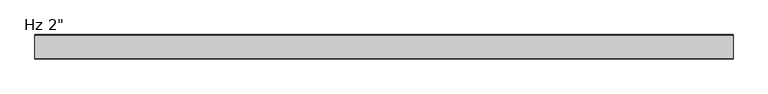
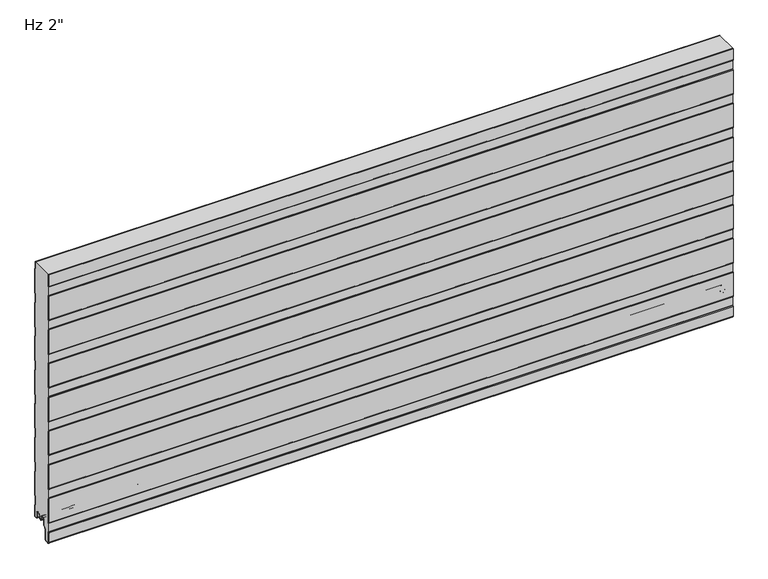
"""IFC4 building model written with IfcOpenShell, lengths in millimetres: plate geometry."""

from ifc_helpers import new_model, si_unit, point, frame, frame_2d, origin, place, context, project, spatial, polyline, circle_curve, trimmed, segment, composite_curve, outline, extrude, source, transform, mapped, element, save
from ifc_brep_helpers import plane_surface, cylinder_surface, revolved_surface, advanced_brep


def plate_15712d7d(model_context):
    return source(origin(), model_context, "Body", "SolidModel", [
        extrude(outline(composite_curve([segment(trimmed(circle_curve(frame_2d((-22.5065589, 2.2313092)), 1.1999976), [point((-22.476037, 1.0316999))], [point((-21.3065623, 2.2328239))], True, "CARTESIAN"), True, "CONTINUOUS"), segment(polyline([(-21.3065623, 2.2328239), (-21.3065623, 5.9912173), (-22.7050411, 5.9912173), (-22.7050411, 8.6903283)]), True, "CONTINUOUS"), segment(trimmed(circle_curve(frame_2d((-26.0550364, 8.6903283)), 3.3499953), [point((-22.7050411, 8.6903283))], [point((-26.0550364, 12.0403236))], True, "CARTESIAN"), True, "CONTINUOUS"), segment(polyline([(-26.0550364, 12.0403236), (-30.4550276, 12.0403236)]), True, "CONTINUOUS"), segment(trimmed(circle_curve(frame_2d((-30.4550276, 8.6903283)), 3.3499953), [point((-30.4550276, 12.0403236))], [point((-33.8050229, 8.6903283))], True, "CARTESIAN"), True, "CONTINUOUS"), segment(polyline([(-33.8050229, 8.6903283), (-33.8050229, -3.1205608)]), True, "CONTINUOUS"), segment(trimmed(circle_curve(frame_2d((-35.5050175, -3.1205608)), 1.6999946), [point((-33.8050229, -3.1205608))], [point((-34.3029398, -4.3226385))], False, "CARTESIAN"), True, "CONTINUOUS"), segment(polyline([(-34.3029398, -4.3226385), (-39.8050109, -9.8247096), (-39.8050109, -31.9198392)]), True, "CONTINUOUS"), segment(trimmed(circle_curve(frame_2d((-42.5050035, -31.9198392)), 2.6999926), [point((-39.8050109, -31.9198392))], [point((-42.0236129, -34.5765709))], False, "CARTESIAN"), True, "CONTINUOUS"), segment(polyline([(-42.0236129, -34.5765709), (-47.0054338, -35.0125699)]), True, "CONTINUOUS"), segment(trimmed(circle_curve(frame_2d((-47.2295195, -32.4521176)), 2.5702393), [point((-47.0054338, -35.0125699))], [point((-49.7997587, -32.4521176))], False, "CARTESIAN"), True, "CONTINUOUS"), segment(polyline([(-49.7997587, -32.4521176), (-49.7997587, -10.4790962), (-48.5997902, -9.2791277), (-48.5997902, 10.4402849), (-49.8000209, 11.6405156), (-49.8000209, 65.7206473), (-48.5997902, 66.920878), (-48.5997902, 86.6402905), (-49.8000209, 87.8405213), (-49.8000209, 141.920653), (-48.5997902, 143.1208837), (-48.5997902, 162.8402962), (-49.8000209, 164.0405269), (-49.8000209, 218.1206587), (-48.5997902, 219.3208894), (-48.5997902, 239.0403019), (-49.8000209, 240.2405326), (-49.8000209, 294.3206644), (-48.5997902, 295.5208951), (-48.5997902, 315.2403076), (-49.8000209, 316.4405383), (-49.8000209, 370.5206701), (-48.5997902, 371.7209008), (-48.5997902, 391.4403133), (-49.8000209, 392.640544), (-49.8000209, 446.7206758), (-48.5997902, 447.9209065), (-48.5997902, 467.640319), (-49.8000209, 468.8405497), (-49.8000209, 522.9206815), (-48.5997902, 524.1209122), (-48.5997902, 543.8403247), (-49.8000209, 545.0405554), (-49.8000209, 571.2), (-2.2065959, 571.2), (-2.2065959, 555.8186019), (-1.0063652, 554.4329689), (-1.0063652, 500.3795535), (-2.2065959, 498.9939206), (-2.2065959, 479.6187543), (-1.0063652, 478.2331213), (-1.0063652, 424.1797059), (-2.2065959, 422.794073), (-2.2065959, 403.4189067), (-1.0063652, 402.0332737), (-1.0063652, 347.9798583), (-2.2065959, 346.5942254), (-2.2065959, 327.2190591), (-1.0063652, 325.8334261), (-1.0063652, 271.7800107), (-2.2065959, 270.3943778), (-2.2065959, 251.0192115), (-1.0063652, 249.6335785), (-1.0063652, 195.5801631), (-2.2065959, 194.1945302), (-2.2065959, 174.8193639), (-1.0063652, 173.4337309), (-1.0063652, 119.3803155), (-2.2065959, 117.9946826), (-2.2065959, 98.6195163), (-1.0063652, 97.2338833), (-1.0063652, 43.1804679), (-2.2065959, 41.794835), (-2.2065959, 22.4196687), (-1.0063568, 21.034026), (-1.0063568, -3.4662506), (-5.2379042, -3.4662506)]), True, "CONTINUOUS"), segment(trimmed(circle_curve(frame_2d((-5.2379042, -1.6962564)), 1.7699942), [point((-5.2379042, -3.4662506))], [point((-7.0078983, -1.6962564))], False, "CARTESIAN"), True, "CONTINUOUS"), segment(polyline([(-7.0078983, -1.6962564), (-7.0078983, 8.7237222)]), True, "CONTINUOUS"), segment(trimmed(circle_curve(frame_2d((-10.3078942, 8.7237222)), 3.2999959), [point((-7.0078983, 8.7237222))], [point((-10.3078942, 12.023718))], True, "CARTESIAN"), True, "CONTINUOUS"), segment(polyline([(-10.3078942, 12.023718), (-14.7078854, 12.023718)]), True, "CONTINUOUS"), segment(trimmed(circle_curve(frame_2d((-14.7078854, 8.7237223)), 3.2999957), [point((-14.7078854, 12.023718))], [point((-18.0078811, 8.7237223))], True, "CARTESIAN"), True, "CONTINUOUS"), segment(polyline([(-18.0078811, 8.7237223), (-18.0078811, 6.0315125), (-19.0078757, 6.0315125), (-19.0078757, 2.0313089)]), True, "CONTINUOUS"), segment(trimmed(circle_curve(frame_2d((-18.0078785, 2.0313089)), 0.9999972), [point((-19.0078757, 2.0313089))], [point((-18.0078844, 1.0313117))], True, "CARTESIAN"), True, "CONTINUOUS"), segment(polyline([(-18.0078844, 1.0313117), (-19.0391961, 0.0), (-21.4443371, 0.0), (-22.476037, 1.0316999)]), True, "CONTINUOUS")], self_intersect=False)), frame((-730.0, 0.0, 0.0), z_axis=(1.0, 0.0, 0.0), x_axis=(0.0, 1.0, 0.0)), (0.0, 0.0, 1.0), 1460.0),
        advanced_brep(
        [(-730.0, -17.0015368, 2.0313088), (-730.0, -18.00154, 1.0313116), (-730.0, -19.0015314, 2.0313088), (-730.0, -19.0015314, 6.0315125), (-730.0, -18.0015368, 6.0315125), (-730.0, -18.0015368, 8.7237223), (-730.0, -14.7015411, 12.023718), (-730.0, -10.3015499, 12.023718), (-730.0, -7.0015544, 8.7237225), (-730.0, -7.0015544, -1.6962564), (-730.0, -5.2315602, -3.4662506), (-730.0, -1.0000126, -3.4662506), (-730.0, -1.0000126, 21.034026), (-730.0, -2.2002516, 22.4196686), (-730.0, -2.2002516, 41.7948349), (-730.0, -1.0000209, 43.1804679), (-730.0, -1.0000209, 97.2338833), (-730.0, -2.2002516, 98.6195162), (-730.0, -2.2002516, 117.9946825), (-730.0, -1.0000209, 119.3803155), (-730.0, -1.0000209, 173.4337309), (-730.0, -2.2002516, 174.8193638), (-730.0, -2.2002516, 194.1945301), (-730.0, -1.0000209, 195.5801631), (-730.0, -1.0000209, 249.6335785), (-730.0, -2.2002516, 251.0192114), (-730.0, -2.2002516, 270.3943777), (-730.0, -1.0000209, 271.7800107), (-730.0, -1.0000209, 325.8334261), (-730.0, -2.2002516, 327.219059), (-730.0, -2.2002516, 346.5942253), (-730.0, -1.0000209, 347.9798583), (-730.0, -1.0000209, 402.0332737), (-730.0, -2.2002516, 403.4189066), (-730.0, -2.2002516, 422.7940729), (-730.0, -1.0000209, 424.1797059), (-730.0, -1.0000209, 478.2331213), (-730.0, -2.2002516, 479.6187542), (-730.0, -2.2002516, 498.9939205), (-730.0, -1.0000209, 500.3795535), (-730.0, -1.0000209, 554.4329689), (-730.0, -2.2002516, 555.8186018), (-730.0, -2.2002516, 571.2), (-730.0, -1.2002516, 571.2), (-730.0, -1.2002516, 556.1914823), (-730.0, -0.3418094, 555.2004346), (-730.0, -2.09e-05, 554.2838177), (-730.0, -2.09e-05, 500.5287046), (-730.0, -0.3418094, 499.6120877), (-730.0, -1.2002516, 498.6210401), (-730.0, -1.2002516, 479.9916347), (-730.0, -0.3418094, 479.000587), (-730.0, -2.09e-05, 478.0839701), (-730.0, -2.09e-05, 424.328857), (-730.0, -0.3418094, 423.4122401), (-730.0, -1.2002516, 422.4211925), (-730.0, -1.2002516, 403.7917871), (-730.0, -0.3418094, 402.8007394), (-730.0, -2.09e-05, 401.8841225), (-730.0, -2.09e-05, 348.1290094), (-730.0, -0.3418094, 347.2123925), (-730.0, -1.2002516, 346.2213449), (-730.0, -1.2002516, 327.5919395), (-730.0, -0.3418094, 326.6008918), (-730.0, -2.09e-05, 325.6842749), (-730.0, -2.09e-05, 271.9291618), (-730.0, -0.3418094, 271.0125449), (-730.0, -1.2002516, 270.0214973), (-730.0, -1.2002516, 251.3920919), (-730.0, -0.3418094, 250.4010442), (-730.0, -2.09e-05, 249.4844273), (-730.0, -2.09e-05, 195.7293142), (-730.0, -0.3418094, 194.8126973), (-730.0, -1.2002516, 193.8216497), (-730.0, -1.2002516, 175.1922443), (-730.0, -0.3418094, 174.2011966), (-730.0, -2.09e-05, 173.2845797), (-730.0, -2.09e-05, 119.5294666), (-730.0, -0.3418094, 118.6128497), (-730.0, -1.2002516, 117.6218021), (-730.0, -1.2002516, 98.9923967), (-730.0, -0.3418094, 98.001349), (-730.0, -2.09e-05, 97.0847321), (-730.0, -2.09e-05, 43.329619), (-730.0, -0.3418094, 42.4130021), (-730.0, -1.2002516, 41.4219545), (-730.0, -1.2002516, 22.7925491), (-730.0, -0.3418094, 21.8015014), (-730.0, -2.09e-05, 20.8847931), (-730.0, -1.26e-05, -3.0662545), (-730.0, -1.4000087, -4.4662506), (-730.0, -5.2315602, -4.4662506), (-730.0, -8.0015544, -1.6962564), (-730.0, -8.0015544, 8.7237225), (-730.0, -10.3015499, 11.023718), (-730.0, -14.7015411, 11.023718), (-730.0, -17.0015368, 8.7237223), (730.0, -17.0015368, 2.0313088), (730.0, -17.0015368, 8.7237223), (730.0, -14.7015411, 11.023718), (730.0, -10.3015499, 11.023718), (730.0, -8.0015544, 8.7237225), (730.0, -8.0015544, -1.6962564), (730.0, -5.2315602, -4.4662506), (730.0, -1.4000087, -4.4662506), (730.0, -1.26e-05, -3.0662545), (730.0, -1.26e-05, 20.8848845), (730.0, -0.3418094, 21.8015014), (730.0, -1.2002516, 22.7925491), (730.0, -1.2002516, 41.4219545), (730.0, -0.3418094, 42.4130021), (730.0, -2.09e-05, 43.329619), (730.0, -2.09e-05, 97.0847321), (730.0, -0.3418094, 98.001349), (730.0, -1.2002516, 98.9923967), (730.0, -1.2002516, 117.6218021), (730.0, -0.3418094, 118.6128497), (730.0, -2.09e-05, 119.5294666), (730.0, -2.09e-05, 173.2845797), (730.0, -0.3418094, 174.2011966), (730.0, -1.2002516, 175.1922443), (730.0, -1.2002516, 193.8216497), (730.0, -0.3418094, 194.8126973), (730.0, -2.09e-05, 195.7293142), (730.0, -2.09e-05, 249.4844273), (730.0, -0.3418094, 250.4010442), (730.0, -1.2002516, 251.3920919), (730.0, -1.2002516, 270.0214973), (730.0, -0.3418094, 271.0125449), (730.0, -2.09e-05, 271.9291618), (730.0, -2.09e-05, 325.6842749), (730.0, -0.3418094, 326.6008918), (730.0, -1.2002516, 327.5919395), (730.0, -1.2002516, 346.2213449), (730.0, -0.3418094, 347.2123925), (730.0, -2.09e-05, 348.1290094), (730.0, -2.09e-05, 401.8841225), (730.0, -0.3418094, 402.8007394), (730.0, -1.2002516, 403.7917871), (730.0, -1.2002516, 422.4211925), (730.0, -0.3418094, 423.4122401), (730.0, -2.09e-05, 424.328857), (730.0, -2.09e-05, 478.0839701), (730.0, -0.3418094, 479.000587), (730.0, -1.2002516, 479.9916347), (730.0, -1.2002516, 498.6210401), (730.0, -0.3418094, 499.6120877), (730.0, -2.09e-05, 500.5287046), (730.0, -2.09e-05, 554.2838177), (730.0, -0.3418094, 555.2004346), (730.0, -1.2002516, 556.1914823), (730.0, -1.2002516, 571.2), (730.0, -2.2002516, 571.2), (730.0, -2.2002516, 555.8186018), (730.0, -1.0000209, 554.4329689), (730.0, -1.0000209, 500.3795535), (730.0, -2.2002516, 498.9939205), (730.0, -2.2002516, 479.6187542), (730.0, -1.0000209, 478.2331213), (730.0, -1.0000209, 424.1797059), (730.0, -2.2002516, 422.7940729), (730.0, -2.2002516, 403.4189066), (730.0, -1.0000209, 402.0332737), (730.0, -1.0000209, 347.9798583), (730.0, -2.2002516, 346.5942253), (730.0, -2.2002516, 327.219059), (730.0, -1.0000209, 325.8334261), (730.0, -1.0000209, 271.7800107), (730.0, -2.2002516, 270.3943777), (730.0, -2.2002516, 251.0192114), (730.0, -1.0000209, 249.6335785), (730.0, -1.0000209, 195.5801631), (730.0, -2.2002516, 194.1945301), (730.0, -2.2002516, 174.8193638), (730.0, -1.0000209, 173.4337309), (730.0, -1.0000209, 119.3803155), (730.0, -2.2002516, 117.9946825), (730.0, -2.2002516, 98.6195162), (730.0, -1.0000209, 97.2338833), (730.0, -1.0000209, 43.1804679), (730.0, -2.2002516, 41.7948349), (730.0, -2.2002516, 22.4196686), (730.0, -1.0000126, 21.034026), (730.0, -1.0000126, -3.4662506), (730.0, -5.2315602, -3.4662506), (730.0, -7.0015544, -1.6962564), (730.0, -7.0015544, 8.7237225), (730.0, -10.3015499, 12.023718), (730.0, -14.7015411, 12.023718), (730.0, -18.0015368, 8.7237223), (730.0, -18.0015368, 6.0315125), (730.0, -19.0015314, 6.0315125), (730.0, -19.0015314, 2.0313088), (730.0, -18.0015401, 1.0313116)],
        [
            (0, 1, circle_curve(frame((-730.0, -18.0015341, 2.0313088), z_axis=(-1.0, 0.0, 0.0), x_axis=(0.0, 0.0, 1.0)), 0.9999973)),
            (1, 2, circle_curve(frame((-730.0, -18.0015342, 2.0313088), z_axis=(-1.0, 0.0, 0.0), x_axis=(0.0, 0.0, 1.0)), 0.9999972)),
            (2, 3),
            (3, 4),
            (4, 5),
            (5, 6, circle_curve(frame((-730.0, -14.7015411, 8.7237223), z_axis=(-1.0, 0.0, 0.0), x_axis=(0.0, 0.0, 1.0)), 3.2999957)),
            (6, 7),
            (7, 8, circle_curve(frame((-730.0, -10.3015499, 8.7237225), z_axis=(-1.0, 0.0, 0.0), x_axis=(0.0, 0.0, 1.0)), 3.2999955)),
            (8, 9),
            (9, 10, circle_curve(frame((-730.0, -5.2315602, -1.6962564), z_axis=(1.0, 0.0, 0.0), x_axis=(0.0, 0.0, 1.0)), 1.7699942)),
            (10, 11),
            (11, 12),
            (12, 13),
            (13, 14),
            (14, 15),
            (15, 16),
            (16, 17),
            (17, 18),
            (18, 19),
            (19, 20),
            (20, 21),
            (21, 22),
            (22, 23),
            (23, 24),
            (24, 25),
            (25, 26),
            (26, 27),
            (27, 28),
            (28, 29),
            (29, 30),
            (30, 31),
            (31, 32),
            (32, 33),
            (33, 34),
            (34, 35),
            (35, 36),
            (36, 37),
            (37, 38),
            (38, 39),
            (39, 40),
            (40, 41),
            (41, 42),
            (42, 43),
            (43, 44),
            (44, 45),
            (45, 46, circle_curve(frame((-730.0, -1.4000181, 554.2838177), z_axis=(-1.0, 0.0, 0.0), x_axis=(0.0, 0.0, 1.0)), 1.3999972)),
            (46, 47),
            (47, 48, circle_curve(frame((-730.0, -1.4000181, 500.5287046), z_axis=(-1.0, 0.0, 0.0), x_axis=(0.0, 0.0, 1.0)), 1.3999972)),
            (48, 49),
            (49, 50),
            (50, 51),
            (51, 52, circle_curve(frame((-730.0, -1.4000181, 478.0839701), z_axis=(-1.0, 0.0, 0.0), x_axis=(0.0, 0.0, 1.0)), 1.3999972)),
            (52, 53),
            (53, 54, circle_curve(frame((-730.0, -1.4000181, 424.328857), z_axis=(-1.0, 0.0, 0.0), x_axis=(0.0, 0.0, 1.0)), 1.3999972)),
            (54, 55),
            (55, 56),
            (56, 57),
            (57, 58, circle_curve(frame((-730.0, -1.4000181, 401.8841225), z_axis=(-1.0, 0.0, 0.0), x_axis=(0.0, 0.0, 1.0)), 1.3999972)),
            (58, 59),
            (59, 60, circle_curve(frame((-730.0, -1.4000181, 348.1290094), z_axis=(-1.0, 0.0, 0.0), x_axis=(0.0, 0.0, 1.0)), 1.3999972)),
            (60, 61),
            (61, 62),
            (62, 63),
            (63, 64, circle_curve(frame((-730.0, -1.4000181, 325.6842749), z_axis=(-1.0, 0.0, 0.0), x_axis=(0.0, 0.0, 1.0)), 1.3999972)),
            (64, 65),
            (65, 66, circle_curve(frame((-730.0, -1.4000181, 271.9291618), z_axis=(-1.0, 0.0, 0.0), x_axis=(0.0, 0.0, 1.0)), 1.3999972)),
            (66, 67),
            (67, 68),
            (68, 69),
            (69, 70, circle_curve(frame((-730.0, -1.4000181, 249.4844273), z_axis=(-1.0, 0.0, 0.0), x_axis=(0.0, 0.0, 1.0)), 1.3999972)),
            (70, 71),
            (71, 72, circle_curve(frame((-730.0, -1.4000181, 195.7293142), z_axis=(-1.0, 0.0, 0.0), x_axis=(0.0, 0.0, 1.0)), 1.3999972)),
            (72, 73),
            (73, 74),
            (74, 75),
            (75, 76, circle_curve(frame((-730.0, -1.4000181, 173.2845797), z_axis=(-1.0, 0.0, 0.0), x_axis=(0.0, 0.0, 1.0)), 1.3999972)),
            (76, 77),
            (77, 78, circle_curve(frame((-730.0, -1.4000181, 119.5294666), z_axis=(-1.0, 0.0, 0.0), x_axis=(0.0, 0.0, 1.0)), 1.3999972)),
            (78, 79),
            (79, 80),
            (80, 81),
            (81, 82, circle_curve(frame((-730.0, -1.4000181, 97.0847321), z_axis=(-1.0, 0.0, 0.0), x_axis=(0.0, 0.0, 1.0)), 1.3999972)),
            (82, 83),
            (83, 84, circle_curve(frame((-730.0, -1.4000181, 43.329619), z_axis=(-1.0, 0.0, 0.0), x_axis=(0.0, 0.0, 1.0)), 1.3999972)),
            (84, 85),
            (85, 86),
            (86, 87),
            (87, 88, circle_curve(frame((-730.0, -1.4000181, 20.8848845), z_axis=(-1.0, 0.0, 0.0), x_axis=(0.0, 0.0, 1.0)), 1.3999972)),
            (88, 89),
            (89, 90, circle_curve(frame((-730.0, -1.4000087, -3.0662545), z_axis=(-1.0, 0.0, 0.0), x_axis=(0.0, 0.0, 1.0)), 1.3999962)),
            (90, 91),
            (91, 92, circle_curve(frame((-730.0, -5.2315602, -1.6962564), z_axis=(-1.0, 0.0, 0.0), x_axis=(0.0, 0.0, 1.0)), 2.7699942)),
            (92, 93),
            (93, 94, circle_curve(frame((-730.0, -10.3015499, 8.7237225), z_axis=(1.0, 0.0, 0.0), x_axis=(0.0, 0.0, 1.0)), 2.2999955)),
            (94, 95),
            (95, 96, circle_curve(frame((-730.0, -14.7015411, 8.7237223), z_axis=(1.0, 0.0, 0.0), x_axis=(0.0, 0.0, 1.0)), 2.2999957)),
            (96, 0),
            (97, 98),
            (98, 99, circle_curve(frame((730.0, -14.7015411, 8.7237223), z_axis=(-1.0, 0.0, 0.0), x_axis=(0.0, 0.0, 1.0)), 2.2999957)),
            (99, 100),
            (100, 101, circle_curve(frame((730.0, -10.3015499, 8.7237225), z_axis=(-1.0, 0.0, 0.0), x_axis=(0.0, 0.0, 1.0)), 2.2999955)),
            (101, 102),
            (102, 103, circle_curve(frame((730.0, -5.2315602, -1.6962564), z_axis=(1.0, 0.0, 0.0), x_axis=(0.0, 0.0, 1.0)), 2.7699942)),
            (103, 104),
            (104, 105, circle_curve(frame((730.0, -1.4000087, -3.0662545), z_axis=(1.0, 0.0, 0.0), x_axis=(0.0, 0.0, 1.0)), 1.3999962)),
            (105, 106),
            (106, 107, circle_curve(frame((730.0, -1.4000181, 20.8848845), z_axis=(1.0, 0.0, 0.0), x_axis=(0.0, 0.0, 1.0)), 1.3999972)),
            (107, 108),
            (108, 109),
            (109, 110),
            (110, 111, circle_curve(frame((730.0, -1.4000181, 43.329619), z_axis=(1.0, 0.0, 0.0), x_axis=(0.0, 0.0, 1.0)), 1.3999972)),
            (111, 112),
            (112, 113, circle_curve(frame((730.0, -1.4000181, 97.0847321), z_axis=(1.0, 0.0, 0.0), x_axis=(0.0, 0.0, 1.0)), 1.3999972)),
            (113, 114),
            (114, 115),
            (115, 116),
            (116, 117, circle_curve(frame((730.0, -1.4000181, 119.5294666), z_axis=(1.0, 0.0, 0.0), x_axis=(0.0, 0.0, 1.0)), 1.3999972)),
            (117, 118),
            (118, 119, circle_curve(frame((730.0, -1.4000181, 173.2845797), z_axis=(1.0, 0.0, 0.0), x_axis=(0.0, 0.0, 1.0)), 1.3999972)),
            (119, 120),
            (120, 121),
            (121, 122),
            (122, 123, circle_curve(frame((730.0, -1.4000181, 195.7293142), z_axis=(1.0, 0.0, 0.0), x_axis=(0.0, 0.0, 1.0)), 1.3999972)),
            (123, 124),
            (124, 125, circle_curve(frame((730.0, -1.4000181, 249.4844273), z_axis=(1.0, 0.0, 0.0), x_axis=(0.0, 0.0, 1.0)), 1.3999972)),
            (125, 126),
            (126, 127),
            (127, 128),
            (128, 129, circle_curve(frame((730.0, -1.4000181, 271.9291618), z_axis=(1.0, 0.0, 0.0), x_axis=(0.0, 0.0, 1.0)), 1.3999972)),
            (129, 130),
            (130, 131, circle_curve(frame((730.0, -1.4000181, 325.6842749), z_axis=(1.0, 0.0, 0.0), x_axis=(0.0, 0.0, 1.0)), 1.3999972)),
            (131, 132),
            (132, 133),
            (133, 134),
            (134, 135, circle_curve(frame((730.0, -1.4000181, 348.1290094), z_axis=(1.0, 0.0, 0.0), x_axis=(0.0, 0.0, 1.0)), 1.3999972)),
            (135, 136),
            (136, 137, circle_curve(frame((730.0, -1.4000181, 401.8841225), z_axis=(1.0, 0.0, 0.0), x_axis=(0.0, 0.0, 1.0)), 1.3999972)),
            (137, 138),
            (138, 139),
            (139, 140),
            (140, 141, circle_curve(frame((730.0, -1.4000181, 424.328857), z_axis=(1.0, 0.0, 0.0), x_axis=(0.0, 0.0, 1.0)), 1.3999972)),
            (141, 142),
            (142, 143, circle_curve(frame((730.0, -1.4000181, 478.0839701), z_axis=(1.0, 0.0, 0.0), x_axis=(0.0, 0.0, 1.0)), 1.3999972)),
            (143, 144),
            (144, 145),
            (145, 146),
            (146, 147, circle_curve(frame((730.0, -1.4000181, 500.5287046), z_axis=(1.0, 0.0, 0.0), x_axis=(0.0, 0.0, 1.0)), 1.3999972)),
            (147, 148),
            (148, 149, circle_curve(frame((730.0, -1.4000181, 554.2838177), z_axis=(1.0, 0.0, 0.0), x_axis=(0.0, 0.0, 1.0)), 1.3999972)),
            (149, 150),
            (150, 151),
            (151, 152),
            (152, 153),
            (153, 154),
            (154, 155),
            (155, 156),
            (156, 157),
            (157, 158),
            (158, 159),
            (159, 160),
            (160, 161),
            (161, 162),
            (162, 163),
            (163, 164),
            (164, 165),
            (165, 166),
            (166, 167),
            (167, 168),
            (168, 169),
            (169, 170),
            (170, 171),
            (171, 172),
            (172, 173),
            (173, 174),
            (174, 175),
            (175, 176),
            (176, 177),
            (177, 178),
            (178, 179),
            (179, 180),
            (180, 181),
            (181, 182),
            (182, 183),
            (183, 184),
            (184, 185, circle_curve(frame((730.0, -5.2315602, -1.6962564), z_axis=(-1.0, 0.0, 0.0), x_axis=(0.0, 0.0, 1.0)), 1.7699942)),
            (185, 186),
            (186, 187, circle_curve(frame((730.0, -10.3015499, 8.7237225), z_axis=(1.0, 0.0, 0.0), x_axis=(0.0, 0.0, 1.0)), 3.2999955)),
            (187, 188),
            (188, 189, circle_curve(frame((730.0, -14.7015411, 8.7237223), z_axis=(1.0, 0.0, 0.0), x_axis=(0.0, 0.0, 1.0)), 3.2999957)),
            (189, 190),
            (190, 191),
            (191, 192),
            (192, 193, circle_curve(frame((730.0, -18.0015342, 2.0313088), z_axis=(1.0, 0.0, 0.0), x_axis=(0.0, 0.0, 1.0)), 0.9999972)),
            (193, 97, circle_curve(frame((730.0, -18.0015341, 2.0313088), z_axis=(1.0, 0.0, 0.0), x_axis=(0.0, 0.0, 1.0)), 0.9999973)),
            (96, 98),
            (97, 0),
            (95, 99),
            (94, 100),
            (93, 101),
            (92, 102),
            (91, 103),
            (90, 104),
            (89, 105),
            (88, 106),
            (87, 107),
            (86, 108),
            (85, 109),
            (84, 110),
            (83, 111),
            (82, 112),
            (81, 113),
            (80, 114),
            (79, 115),
            (78, 116),
            (77, 117),
            (76, 118),
            (75, 119),
            (74, 120),
            (73, 121),
            (72, 122),
            (71, 123),
            (70, 124),
            (69, 125),
            (68, 126),
            (67, 127),
            (66, 128),
            (65, 129),
            (64, 130),
            (63, 131),
            (62, 132),
            (61, 133),
            (60, 134),
            (59, 135),
            (58, 136),
            (57, 137),
            (56, 138),
            (55, 139),
            (54, 140),
            (53, 141),
            (52, 142),
            (51, 143),
            (50, 144),
            (49, 145),
            (48, 146),
            (47, 147),
            (46, 148),
            (45, 149),
            (44, 150),
            (43, 151),
            (152, 42),
            (41, 153),
            (40, 154),
            (39, 155),
            (38, 156),
            (37, 157),
            (36, 158),
            (35, 159),
            (34, 160),
            (33, 161),
            (32, 162),
            (31, 163),
            (30, 164),
            (29, 165),
            (28, 166),
            (27, 167),
            (26, 168),
            (25, 169),
            (24, 170),
            (23, 171),
            (22, 172),
            (21, 173),
            (20, 174),
            (19, 175),
            (18, 176),
            (17, 177),
            (16, 178),
            (15, 179),
            (14, 180),
            (13, 181),
            (12, 182),
            (11, 183),
            (10, 184),
            (9, 185),
            (8, 186),
            (7, 187),
            (6, 188),
            (5, 189),
            (4, 190),
            (3, 191),
            (2, 192),
            (1, 193),
        ],
        [
            plane_surface(frame((-730.0, -2.09e-05, 457.2), z_axis=(-1.0, 0.0, 0.0), x_axis=(0.0, 1.0, 0.0))),
            plane_surface(frame((730.0, -2.09e-05, 457.2), z_axis=(1.0, 0.0, 0.0), x_axis=(0.0, 1.0, 0.0))),
            plane_surface(frame((-730.0, -17.0015368, 2.0313088), z_axis=(0.0, 1.0, 0.0), x_axis=(1.0, 0.0, 0.0))),
            revolved_surface(polyline([(730.0, -14.7015411, 11.023718), (-730.0, -14.7015411, 11.023718)]), (-730.0, -14.7015411, 8.7237223), (1.0, 0.0, 0.0)),
            plane_surface(frame((-730.0, -14.7015411, 11.023718), z_axis=(0.0, 0.0, -1.0), x_axis=(1.0, 0.0, 0.0))),
            revolved_surface(polyline([(730.0, -10.3015499, 11.023717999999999), (-730.0, -10.3015499, 11.023717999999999)]), (-730.0, -10.3015499, 8.7237225), (1.0, 0.0, 0.0)),
            plane_surface(frame((-730.0, -8.0015544, 8.7237225), z_axis=(0.0, -1.0, 0.0), x_axis=(1.0, 0.0, 0.0))),
            cylinder_surface(frame((-730.0, -5.2315602, -1.6962564), z_axis=(-1.0, 0.0, 0.0), x_axis=(0.0, 0.0, 1.0)), 2.7699942),
            plane_surface(frame((-730.0, -5.2315602, -4.4662506), z_axis=(0.0, 0.0, -1.0), x_axis=(1.0, 0.0, 0.0))),
            cylinder_surface(frame((-730.0, -1.4000087, -3.0662545), z_axis=(-1.0, 0.0, 0.0), x_axis=(0.0, 0.0, 1.0)), 1.3999962),
            plane_surface(frame((-730.0, -1.26e-05, -3.0662545), z_axis=(0.0, 1.0, 0.0), x_axis=(1.0, 0.0, 0.0))),
            cylinder_surface(frame((-730.0, -1.4000181, 20.8848845), z_axis=(-1.0, 0.0, 0.0), x_axis=(0.0, 0.0, 1.0)), 1.3999972),
            plane_surface(frame((-730.0, -0.3418094, 21.8015014), z_axis=(0.0, 0.755864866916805, 0.6547276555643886), x_axis=(1.0, 0.0, 0.0))),
            plane_surface(frame((-730.0, -1.2002516, 32.1072518), z_axis=(0.0, 1.0, 0.0), x_axis=(1.0, 0.0, 0.0))),
            plane_surface(frame((-730.0, -1.2002516, 41.4219545), z_axis=(0.0, 0.755864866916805, -0.6547276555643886), x_axis=(1.0, 0.0, 0.0))),
            cylinder_surface(frame((-730.0, -1.4000181, 43.329619), z_axis=(-1.0, 0.0, 0.0), x_axis=(0.0, 0.0, 1.0)), 1.3999972),
            plane_surface(frame((-730.0, -2.09e-05, 43.329619), z_axis=(0.0, 1.0, 0.0), x_axis=(1.0, 0.0, 0.0))),
            cylinder_surface(frame((-730.0, -1.4000181, 97.0847321), z_axis=(-1.0, 0.0, 0.0), x_axis=(0.0, 0.0, 1.0)), 1.3999972),
            plane_surface(frame((-730.0, -0.3418094, 98.001349), z_axis=(0.0, 0.755864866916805, 0.6547276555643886), x_axis=(1.0, 0.0, 0.0))),
            plane_surface(frame((-730.0, -1.2002516, 108.3070994), z_axis=(0.0, 1.0, 0.0), x_axis=(1.0, 0.0, 0.0))),
            plane_surface(frame((-730.0, -1.2002516, 117.6218021), z_axis=(0.0, 0.755864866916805, -0.6547276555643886), x_axis=(1.0, 0.0, 0.0))),
            cylinder_surface(frame((-730.0, -1.4000181, 119.5294666), z_axis=(-1.0, 0.0, 0.0), x_axis=(0.0, 0.0, 1.0)), 1.3999972),
            plane_surface(frame((-730.0, -2.09e-05, 119.5294666), z_axis=(0.0, 1.0, 0.0), x_axis=(1.0, 0.0, 0.0))),
            cylinder_surface(frame((-730.0, -1.4000181, 173.2845797), z_axis=(-1.0, 0.0, 0.0), x_axis=(0.0, 0.0, 1.0)), 1.3999972),
            plane_surface(frame((-730.0, -0.3418094, 174.2011966), z_axis=(0.0, 0.755864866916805, 0.6547276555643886), x_axis=(1.0, 0.0, 0.0))),
            plane_surface(frame((-730.0, -1.2002516, 184.506947), z_axis=(0.0, 1.0, 0.0), x_axis=(1.0, 0.0, 0.0))),
            plane_surface(frame((-730.0, -1.2002516, 193.8216497), z_axis=(0.0, 0.755864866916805, -0.6547276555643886), x_axis=(1.0, 0.0, 0.0))),
            cylinder_surface(frame((-730.0, -1.4000181, 195.7293142), z_axis=(-1.0, 0.0, 0.0), x_axis=(0.0, 0.0, 1.0)), 1.3999972),
            plane_surface(frame((-730.0, -2.09e-05, 195.7293142), z_axis=(0.0, 1.0, 0.0), x_axis=(1.0, 0.0, 0.0))),
            cylinder_surface(frame((-730.0, -1.4000181, 249.4844273), z_axis=(-1.0, 0.0, 0.0), x_axis=(0.0, 0.0, 1.0)), 1.3999972),
            plane_surface(frame((-730.0, -0.3418094, 250.4010442), z_axis=(0.0, 0.755864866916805, 0.6547276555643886), x_axis=(1.0, 0.0, 0.0))),
            plane_surface(frame((-730.0, -1.2002516, 260.7067946), z_axis=(0.0, 1.0, 0.0), x_axis=(1.0, 0.0, 0.0))),
            plane_surface(frame((-730.0, -1.2002516, 270.0214973), z_axis=(0.0, 0.755864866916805, -0.6547276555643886), x_axis=(1.0, 0.0, 0.0))),
            cylinder_surface(frame((-730.0, -1.4000181, 271.9291618), z_axis=(-1.0, 0.0, 0.0), x_axis=(0.0, 0.0, 1.0)), 1.3999972),
            plane_surface(frame((-730.0, -2.09e-05, 271.9291618), z_axis=(0.0, 1.0, 0.0), x_axis=(1.0, 0.0, 0.0))),
            cylinder_surface(frame((-730.0, -1.4000181, 325.6842749), z_axis=(-1.0, 0.0, 0.0), x_axis=(0.0, 0.0, 1.0)), 1.3999972),
            plane_surface(frame((-730.0, -0.3418094, 326.6008918), z_axis=(0.0, 0.755864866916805, 0.6547276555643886), x_axis=(1.0, 0.0, 0.0))),
            plane_surface(frame((-730.0, -1.2002516, 336.9066422), z_axis=(0.0, 1.0, 0.0), x_axis=(1.0, 0.0, 0.0))),
            plane_surface(frame((-730.0, -1.2002516, 346.2213449), z_axis=(0.0, 0.755864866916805, -0.6547276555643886), x_axis=(1.0, 0.0, 0.0))),
            cylinder_surface(frame((-730.0, -1.4000181, 348.1290094), z_axis=(-1.0, 0.0, 0.0), x_axis=(0.0, 0.0, 1.0)), 1.3999972),
            plane_surface(frame((-730.0, -2.09e-05, 348.1290094), z_axis=(0.0, 1.0, 0.0), x_axis=(1.0, 0.0, 0.0))),
            cylinder_surface(frame((-730.0, -1.4000181, 401.8841225), z_axis=(-1.0, 0.0, 0.0), x_axis=(0.0, 0.0, 1.0)), 1.3999972),
            plane_surface(frame((-730.0, -0.3418094, 402.8007394), z_axis=(0.0, 0.755864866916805, 0.6547276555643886), x_axis=(1.0, 0.0, 0.0))),
            plane_surface(frame((-730.0, -1.2002516, 413.1064898), z_axis=(0.0, 1.0, 0.0), x_axis=(1.0, 0.0, 0.0))),
            plane_surface(frame((-730.0, -1.2002516, 422.4211925), z_axis=(0.0, 0.755864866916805, -0.6547276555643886), x_axis=(1.0, 0.0, 0.0))),
            cylinder_surface(frame((-730.0, -1.4000181, 424.328857), z_axis=(-1.0, 0.0, 0.0), x_axis=(0.0, 0.0, 1.0)), 1.3999972),
            plane_surface(frame((-730.0, -2.09e-05, 424.328857), z_axis=(0.0, 1.0, 0.0), x_axis=(1.0, 0.0, 0.0))),
            cylinder_surface(frame((-730.0, -1.4000181, 478.0839701), z_axis=(-1.0, 0.0, 0.0), x_axis=(0.0, 0.0, 1.0)), 1.3999972),
            plane_surface(frame((-730.0, -0.3418094, 479.000587), z_axis=(0.0, 0.755864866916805, 0.6547276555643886), x_axis=(1.0, 0.0, 0.0))),
            plane_surface(frame((-730.0, -1.2002516, 489.3063374), z_axis=(0.0, 1.0, 0.0), x_axis=(1.0, 0.0, 0.0))),
            plane_surface(frame((-730.0, -1.2002516, 498.6210401), z_axis=(0.0, 0.755864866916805, -0.6547276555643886), x_axis=(1.0, 0.0, 0.0))),
            cylinder_surface(frame((-730.0, -1.4000181, 500.5287046), z_axis=(-1.0, 0.0, 0.0), x_axis=(0.0, 0.0, 1.0)), 1.3999972),
            plane_surface(frame((-730.0, -2.09e-05, 500.5287046), z_axis=(0.0, 1.0, 0.0), x_axis=(1.0, 0.0, 0.0))),
            cylinder_surface(frame((-730.0, -1.4000181, 554.2838177), z_axis=(-1.0, 0.0, 0.0), x_axis=(0.0, 0.0, 1.0)), 1.3999972),
            plane_surface(frame((-730.0, -0.3418094, 555.2004346), z_axis=(0.0, 0.755864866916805, 0.6547276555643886), x_axis=(1.0, 0.0, 0.0))),
            plane_surface(frame((-730.0, -1.2002516, 565.506185), z_axis=(0.0, 1.0, 0.0), x_axis=(1.0, 0.0, 0.0))),
            plane_surface(frame((-730.0, -2.2002516, 575.1937681), z_axis=(0.0, -1.0, 0.0), x_axis=(1.0, 0.0, 0.0))),
            plane_surface(frame((-730.0, -2.2002516, 555.8186018), z_axis=(0.0, -0.755864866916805, -0.6547276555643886), x_axis=(1.0, 0.0, 0.0))),
            plane_surface(frame((-730.0, -1.0000209, 554.4329689), z_axis=(0.0, -1.0, 0.0), x_axis=(1.0, 0.0, 0.0))),
            plane_surface(frame((-730.0, -1.0000209, 500.3795535), z_axis=(0.0, -0.755864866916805, 0.6547276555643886), x_axis=(1.0, 0.0, 0.0))),
            plane_surface(frame((-730.0, -2.2002516, 498.9939205), z_axis=(0.0, -1.0, 0.0), x_axis=(1.0, 0.0, 0.0))),
            plane_surface(frame((-730.0, -2.2002516, 479.6187542), z_axis=(0.0, -0.755864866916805, -0.6547276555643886), x_axis=(1.0, 0.0, 0.0))),
            plane_surface(frame((-730.0, -1.0000209, 478.2331213), z_axis=(0.0, -1.0, 0.0), x_axis=(1.0, 0.0, 0.0))),
            plane_surface(frame((-730.0, -1.0000209, 424.1797059), z_axis=(0.0, -0.755864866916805, 0.6547276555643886), x_axis=(1.0, 0.0, 0.0))),
            plane_surface(frame((-730.0, -2.2002516, 422.7940729), z_axis=(0.0, -1.0, 0.0), x_axis=(1.0, 0.0, 0.0))),
            plane_surface(frame((-730.0, -2.2002516, 403.4189066), z_axis=(0.0, -0.755864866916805, -0.6547276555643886), x_axis=(1.0, 0.0, 0.0))),
            plane_surface(frame((-730.0, -1.0000209, 402.0332737), z_axis=(0.0, -1.0, 0.0), x_axis=(1.0, 0.0, 0.0))),
            plane_surface(frame((-730.0, -1.0000209, 347.9798583), z_axis=(0.0, -0.755864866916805, 0.6547276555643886), x_axis=(1.0, 0.0, 0.0))),
            plane_surface(frame((-730.0, -2.2002516, 346.5942253), z_axis=(0.0, -1.0, 0.0), x_axis=(1.0, 0.0, 0.0))),
            plane_surface(frame((-730.0, -2.2002516, 327.219059), z_axis=(0.0, -0.755864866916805, -0.6547276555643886), x_axis=(1.0, 0.0, 0.0))),
            plane_surface(frame((-730.0, -1.0000209, 325.8334261), z_axis=(0.0, -1.0, 0.0), x_axis=(1.0, 0.0, 0.0))),
            plane_surface(frame((-730.0, -1.0000209, 271.7800107), z_axis=(0.0, -0.755864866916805, 0.6547276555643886), x_axis=(1.0, 0.0, 0.0))),
            plane_surface(frame((-730.0, -2.2002516, 270.3943777), z_axis=(0.0, -1.0, 0.0), x_axis=(1.0, 0.0, 0.0))),
            plane_surface(frame((-730.0, -2.2002516, 251.0192114), z_axis=(0.0, -0.755864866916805, -0.6547276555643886), x_axis=(1.0, 0.0, 0.0))),
            plane_surface(frame((-730.0, -1.0000209, 249.6335785), z_axis=(0.0, -1.0, 0.0), x_axis=(1.0, 0.0, 0.0))),
            plane_surface(frame((-730.0, -1.0000209, 195.5801631), z_axis=(0.0, -0.755864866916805, 0.6547276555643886), x_axis=(1.0, 0.0, 0.0))),
            plane_surface(frame((-730.0, -2.2002516, 194.1945301), z_axis=(0.0, -1.0, 0.0), x_axis=(1.0, 0.0, 0.0))),
            plane_surface(frame((-730.0, -2.2002516, 174.8193638), z_axis=(0.0, -0.755864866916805, -0.6547276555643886), x_axis=(1.0, 0.0, 0.0))),
            plane_surface(frame((-730.0, -1.0000209, 173.4337309), z_axis=(0.0, -1.0, 0.0), x_axis=(1.0, 0.0, 0.0))),
            plane_surface(frame((-730.0, -1.0000209, 119.3803155), z_axis=(0.0, -0.755864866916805, 0.6547276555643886), x_axis=(1.0, 0.0, 0.0))),
            plane_surface(frame((-730.0, -2.2002516, 117.9946825), z_axis=(0.0, -1.0, 0.0), x_axis=(1.0, 0.0, 0.0))),
            plane_surface(frame((-730.0, -2.2002516, 98.6195162), z_axis=(0.0, -0.755864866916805, -0.6547276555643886), x_axis=(1.0, 0.0, 0.0))),
            plane_surface(frame((-730.0, -1.0000209, 97.2338833), z_axis=(0.0, -1.0, 0.0), x_axis=(1.0, 0.0, 0.0))),
            plane_surface(frame((-730.0, -1.0000209, 43.1804679), z_axis=(0.0, -0.755864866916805, 0.6547276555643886), x_axis=(1.0, 0.0, 0.0))),
            plane_surface(frame((-730.0, -2.2002516, 41.7948349), z_axis=(0.0, -1.0, 0.0), x_axis=(1.0, 0.0, 0.0))),
            plane_surface(frame((-730.0, -2.2002516, 22.4196686), z_axis=(0.0, -0.755864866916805, -0.6547276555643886), x_axis=(1.0, 0.0, 0.0))),
            plane_surface(frame((-730.0, -1.0000126, 21.034026), z_axis=(0.0, -1.0, 0.0), x_axis=(1.0, 0.0, 0.0))),
            plane_surface(frame((-730.0, -1.0000126, -3.4662506), z_axis=(0.0, 0.0, 1.0), x_axis=(1.0, 0.0, 0.0))),
            revolved_surface(polyline([(730.0, -5.2315602, 0.07373779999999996), (-730.0, -5.2315602, 0.07373779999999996)]), (-730.0, -5.2315602, -1.6962564), (1.0, 0.0, 0.0)),
            plane_surface(frame((-730.0, -7.0015544, -1.6962564), z_axis=(0.0, 1.0, 0.0), x_axis=(1.0, 0.0, 0.0))),
            cylinder_surface(frame((-730.0, -10.3015499, 8.7237225), z_axis=(-1.0, 0.0, 0.0), x_axis=(0.0, 0.0, 1.0)), 3.2999955),
            plane_surface(frame((-730.0, -10.3015499, 12.023718), z_axis=(0.0, 0.0, 1.0), x_axis=(1.0, 0.0, 0.0))),
            cylinder_surface(frame((-730.0, -14.7015411, 8.7237223), z_axis=(-1.0, 0.0, 0.0), x_axis=(0.0, 0.0, 1.0)), 3.2999957),
            plane_surface(frame((-730.0, -18.0015368, 8.7237223), z_axis=(0.0, -1.0, 0.0), x_axis=(1.0, 0.0, 0.0))),
            plane_surface(frame((-730.0, -18.0015368, 6.0315125), z_axis=(0.0, 0.0, 1.0), x_axis=(1.0, 0.0, 0.0))),
            plane_surface(frame((-730.0, -19.0015314, 6.0315125), z_axis=(0.0, -1.0, 0.0), x_axis=(1.0, 0.0, 0.0))),
            cylinder_surface(frame((-730.0, -18.0015342, 2.0313088), z_axis=(-1.0, 0.0, 0.0), x_axis=(0.0, 0.0, 1.0)), 0.9999972),
            cylinder_surface(frame((-730.0, -18.0015341, 2.0313088), z_axis=(-1.0, 0.0, 0.0), x_axis=(0.0, 0.0, 1.0)), 0.9999973),
            plane_surface(frame((730.0, 9.9999791, 571.2), z_axis=(0.0, 0.0, 1.0), x_axis=(-1.0, 0.0, 0.0))),
        ],
        [
            (0, [[1, 2, 3, 4, 5, 6, 7, 8, 9, 10, 11, 12, 13, 14, 15, 16, 17, 18, 19, 20, 21, 22, 23, 24, 25, 26, 27, 28, 29, 30, 31, 32, 33, 34, 35, 36, 37, 38, 39, 40, 41, 42, 43, 44, 45, 46, 47, 48, 49, 50, 51, 52, 53, 54, 55, 56, 57, 58, 59, 60, 61, 62, 63, 64, 65, 66, 67, 68, 69, 70, 71, 72, 73, 74, 75, 76, 77, 78, 79, 80, 81, 82, 83, 84, 85, 86, 87, 88, 89, 90, 91, 92, 93, 94, 95, 96, 97]]),
            (1, [[98, 99, 100, 101, 102, 103, 104, 105, 106, 107, 108, 109, 110, 111, 112, 113, 114, 115, 116, 117, 118, 119, 120, 121, 122, 123, 124, 125, 126, 127, 128, 129, 130, 131, 132, 133, 134, 135, 136, 137, 138, 139, 140, 141, 142, 143, 144, 145, 146, 147, 148, 149, 150, 151, 152, 153, 154, 155, 156, 157, 158, 159, 160, 161, 162, 163, 164, 165, 166, 167, 168, 169, 170, 171, 172, 173, 174, 175, 176, 177, 178, 179, 180, 181, 182, 183, 184, 185, 186, 187, 188, 189, 190, 191, 192, 193, 194]]),
            (2, [[195, -98, 196, -97]]),
            (3, [[197, -99, -195, -96]]),
            (4, [[198, -100, -197, -95]]),
            (5, [[199, -101, -198, -94]]),
            (6, [[200, -102, -199, -93]]),
            (7, [[201, -103, -200, -92]]),
            (8, [[202, -104, -201, -91]]),
            (9, [[203, -105, -202, -90]]),
            (10, [[204, -106, -203, -89]]),
            (11, [[205, -107, -204, -88]]),
            (12, [[206, -108, -205, -87]]),
            (13, [[207, -109, -206, -86]]),
            (14, [[208, -110, -207, -85]]),
            (15, [[209, -111, -208, -84]]),
            (16, [[210, -112, -209, -83]]),
            (17, [[211, -113, -210, -82]]),
            (18, [[212, -114, -211, -81]]),
            (19, [[213, -115, -212, -80]]),
            (20, [[214, -116, -213, -79]]),
            (21, [[215, -117, -214, -78]]),
            (22, [[216, -118, -215, -77]]),
            (23, [[217, -119, -216, -76]]),
            (24, [[218, -120, -217, -75]]),
            (25, [[219, -121, -218, -74]]),
            (26, [[220, -122, -219, -73]]),
            (27, [[221, -123, -220, -72]]),
            (28, [[222, -124, -221, -71]]),
            (29, [[223, -125, -222, -70]]),
            (30, [[224, -126, -223, -69]]),
            (31, [[225, -127, -224, -68]]),
            (32, [[226, -128, -225, -67]]),
            (33, [[227, -129, -226, -66]]),
            (34, [[228, -130, -227, -65]]),
            (35, [[229, -131, -228, -64]]),
            (36, [[230, -132, -229, -63]]),
            (37, [[231, -133, -230, -62]]),
            (38, [[232, -134, -231, -61]]),
            (39, [[233, -135, -232, -60]]),
            (40, [[234, -136, -233, -59]]),
            (41, [[235, -137, -234, -58]]),
            (42, [[236, -138, -235, -57]]),
            (43, [[237, -139, -236, -56]]),
            (44, [[238, -140, -237, -55]]),
            (45, [[239, -141, -238, -54]]),
            (46, [[240, -142, -239, -53]]),
            (47, [[241, -143, -240, -52]]),
            (48, [[242, -144, -241, -51]]),
            (49, [[243, -145, -242, -50]]),
            (50, [[244, -146, -243, -49]]),
            (51, [[245, -147, -244, -48]]),
            (52, [[246, -148, -245, -47]]),
            (53, [[247, -149, -246, -46]]),
            (54, [[248, -150, -247, -45]]),
            (55, [[-44, 249, -151, -248]]),
            (56, [[-153, 250, -42, 251]]),
            (57, [[252, -154, -251, -41]]),
            (58, [[253, -155, -252, -40]]),
            (59, [[254, -156, -253, -39]]),
            (60, [[255, -157, -254, -38]]),
            (61, [[256, -158, -255, -37]]),
            (62, [[257, -159, -256, -36]]),
            (63, [[258, -160, -257, -35]]),
            (64, [[259, -161, -258, -34]]),
            (65, [[260, -162, -259, -33]]),
            (66, [[261, -163, -260, -32]]),
            (67, [[262, -164, -261, -31]]),
            (68, [[263, -165, -262, -30]]),
            (69, [[264, -166, -263, -29]]),
            (70, [[265, -167, -264, -28]]),
            (71, [[266, -168, -265, -27]]),
            (72, [[267, -169, -266, -26]]),
            (73, [[268, -170, -267, -25]]),
            (74, [[269, -171, -268, -24]]),
            (75, [[270, -172, -269, -23]]),
            (76, [[271, -173, -270, -22]]),
            (77, [[272, -174, -271, -21]]),
            (78, [[273, -175, -272, -20]]),
            (79, [[274, -176, -273, -19]]),
            (80, [[275, -177, -274, -18]]),
            (81, [[276, -178, -275, -17]]),
            (82, [[277, -179, -276, -16]]),
            (83, [[278, -180, -277, -15]]),
            (84, [[279, -181, -278, -14]]),
            (85, [[280, -182, -279, -13]]),
            (86, [[281, -183, -280, -12]]),
            (87, [[282, -184, -281, -11]]),
            (88, [[283, -185, -282, -10]]),
            (89, [[284, -186, -283, -9]]),
            (90, [[285, -187, -284, -8]]),
            (91, [[286, -188, -285, -7]]),
            (92, [[287, -189, -286, -6]]),
            (93, [[288, -190, -287, -5]]),
            (94, [[289, -191, -288, -4]]),
            (95, [[290, -192, -289, -3]]),
            (96, [[291, -193, -290, -2]]),
            (97, [[-196, -194, -291, -1]]),
            (98, [[-250, -152, -249, -43]]),
        ],
    ),
        extrude(outline(composite_curve([segment(trimmed(circle_curve(frame_2d((-49.3998926, -10.6415934)), 1.3998661), [point((-50.7997587, -10.6415934))], [point((-50.3325165, -9.5976403))], False, "CARTESIAN"), True, "CONTINUOUS"), segment(polyline([(-50.3325165, -9.5976403), (-49.5997902, -8.8649141), (-49.5997902, 10.0260713), (-50.3327558, 10.7590369)]), True, "CONTINUOUS"), segment(trimmed(circle_curve(frame_2d((-49.4000446, 11.8030877)), 1.3999972), [point((-50.3327558, 10.7590369))], [point((-50.8000209, 11.810741))], False, "CARTESIAN"), True, "CONTINUOUS"), segment(polyline([(-50.8000209, 11.810741), (-50.8000209, 65.5582542)]), True, "CONTINUOUS"), segment(trimmed(circle_curve(frame_2d((-49.4000237, 65.5582542)), 1.3999972), [point((-50.8000209, 65.5582542))], [point((-50.3327349, 66.602305))], False, "CARTESIAN"), True, "CONTINUOUS"), segment(polyline([(-50.3327349, 66.602305), (-49.5997902, 67.3352497), (-49.5997902, 86.2259189), (-50.3327558, 86.9588845)]), True, "CONTINUOUS"), segment(trimmed(circle_curve(frame_2d((-49.4000446, 88.0029353)), 1.3999972), [point((-50.3327558, 86.9588845))], [point((-50.8000209, 88.0105886))], False, "CARTESIAN"), True, "CONTINUOUS"), segment(polyline([(-50.8000209, 88.0105886), (-50.8000209, 141.7581018)]), True, "CONTINUOUS"), segment(trimmed(circle_curve(frame_2d((-49.4000237, 141.7581018)), 1.3999972), [point((-50.8000209, 141.7581018))], [point((-50.3327349, 142.8021526))], False, "CARTESIAN"), True, "CONTINUOUS"), segment(polyline([(-50.3327349, 142.8021526), (-49.5997902, 143.5350973), (-49.5997902, 162.4257665), (-50.3327558, 163.1587321)]), True, "CONTINUOUS"), segment(trimmed(circle_curve(frame_2d((-49.4000446, 164.2027829)), 1.3999972), [point((-50.3327558, 163.1587321))], [point((-50.8000209, 164.2104362))], False, "CARTESIAN"), True, "CONTINUOUS"), segment(polyline([(-50.8000209, 164.2104362), (-50.8000209, 217.9579494)]), True, "CONTINUOUS"), segment(trimmed(circle_curve(frame_2d((-49.4000237, 217.9579494)), 1.3999972), [point((-50.8000209, 217.9579494))], [point((-50.3327349, 219.0020002))], False, "CARTESIAN"), True, "CONTINUOUS"), segment(polyline([(-50.3327349, 219.0020002), (-49.5997902, 219.7349449), (-49.5997902, 238.6256141), (-50.3327558, 239.3585797)]), True, "CONTINUOUS"), segment(trimmed(circle_curve(frame_2d((-49.4000446, 240.4026305)), 1.3999972), [point((-50.3327558, 239.3585797))], [point((-50.8000209, 240.4102838))], False, "CARTESIAN"), True, "CONTINUOUS"), segment(polyline([(-50.8000209, 240.4102838), (-50.8000209, 294.157797)]), True, "CONTINUOUS"), segment(trimmed(circle_curve(frame_2d((-49.4000237, 294.157797)), 1.3999972), [point((-50.8000209, 294.157797))], [point((-50.3327349, 295.2018478))], False, "CARTESIAN"), True, "CONTINUOUS"), segment(polyline([(-50.3327349, 295.2018478), (-49.5997902, 295.9347925), (-49.5997902, 314.8254617), (-50.3327558, 315.5584273)]), True, "CONTINUOUS"), segment(trimmed(circle_curve(frame_2d((-49.4000446, 316.6024781)), 1.3999972), [point((-50.3327558, 315.5584273))], [point((-50.8000209, 316.6101314))], False, "CARTESIAN"), True, "CONTINUOUS"), segment(polyline([(-50.8000209, 316.6101314), (-50.8000209, 370.3576446)]), True, "CONTINUOUS"), segment(trimmed(circle_curve(frame_2d((-49.4000237, 370.3576446)), 1.3999972), [point((-50.8000209, 370.3576446))], [point((-50.3327349, 371.4016954))], False, "CARTESIAN"), True, "CONTINUOUS"), segment(polyline([(-50.3327349, 371.4016954), (-49.5997902, 372.1346401), (-49.5997902, 391.0253093), (-50.3327558, 391.7582749)]), True, "CONTINUOUS"), segment(trimmed(circle_curve(frame_2d((-49.4000446, 392.8023257)), 1.3999972), [point((-50.3327558, 391.7582749))], [point((-50.8000209, 392.809979))], False, "CARTESIAN"), True, "CONTINUOUS"), segment(polyline([(-50.8000209, 392.809979), (-50.8000209, 446.5574922)]), True, "CONTINUOUS"), segment(trimmed(circle_curve(frame_2d((-49.4000237, 446.5574922)), 1.3999972), [point((-50.8000209, 446.5574922))], [point((-50.3327349, 447.601543))], False, "CARTESIAN"), True, "CONTINUOUS"), segment(polyline([(-50.3327349, 447.601543), (-49.5997902, 448.3344877), (-49.5997902, 467.2251569), (-50.3327558, 467.9581225)]), True, "CONTINUOUS"), segment(trimmed(circle_curve(frame_2d((-49.4000446, 469.0021733)), 1.3999972), [point((-50.3327558, 467.9581225))], [point((-50.8000209, 469.0098266))], False, "CARTESIAN"), True, "CONTINUOUS"), segment(polyline([(-50.8000209, 469.0098266), (-50.8000209, 522.7573398)]), True, "CONTINUOUS"), segment(trimmed(circle_curve(frame_2d((-49.4000237, 522.7573398)), 1.3999972), [point((-50.8000209, 522.7573398))], [point((-50.3327349, 523.8013906))], False, "CARTESIAN"), True, "CONTINUOUS"), segment(polyline([(-50.3327349, 523.8013906), (-49.5997902, 524.5343353), (-49.5997902, 543.4250045), (-50.3327558, 544.1579701)]), True, "CONTINUOUS"), segment(trimmed(circle_curve(frame_2d((-49.4000446, 545.2020209)), 1.3999972), [point((-50.3327558, 544.1579701))], [point((-50.8000209, 545.2096742))], False, "CARTESIAN"), True, "CONTINUOUS"), segment(polyline([(-50.8000209, 545.2096742), (-50.8000209, 571.2), (-49.8000209, 571.2), (-49.8000209, 545.0405554), (-48.5997902, 543.8403247), (-48.5997902, 524.1209122), (-49.8000209, 522.9206815), (-49.8000209, 468.8405497), (-48.5997902, 467.640319), (-48.5997902, 447.9209065), (-49.8000209, 446.7206758), (-49.8000209, 392.640544), (-48.5997902, 391.4403133), (-48.5997902, 371.7209008), (-49.8000209, 370.5206701), (-49.8000209, 316.4405383), (-48.5997902, 315.2403076), (-48.5997902, 295.5208951), (-49.8000209, 294.3206644), (-49.8000209, 240.2405326), (-48.5997902, 239.0403019), (-48.5997902, 219.3208894), (-49.8000209, 218.1206587), (-49.8000209, 164.0405269), (-48.5997902, 162.8402962), (-48.5997902, 143.1208837), (-49.8000209, 141.920653), (-49.8000209, 87.8405213), (-48.5997902, 86.6402905), (-48.5997902, 66.920878), (-49.8000209, 65.7206473), (-49.8000209, 11.6405156), (-48.5997902, 10.4402849), (-48.5997902, -9.2791277), (-49.7997587, -10.4790962), (-49.7997587, -32.4521176)]), True, "CONTINUOUS"), segment(trimmed(circle_curve(frame_2d((-47.2295195, -32.4521176)), 2.5702393), [point((-49.7997587, -32.4521176))], [point((-47.0054338, -35.0125699))], True, "CARTESIAN"), True, "CONTINUOUS"), segment(polyline([(-47.0054338, -35.0125699), (-42.0236129, -34.5765709)]), True, "CONTINUOUS"), segment(trimmed(circle_curve(frame_2d((-42.5050035, -31.9198392)), 2.6999926), [point((-42.0236129, -34.5765709))], [point((-39.8050109, -31.9198392))], True, "CARTESIAN"), True, "CONTINUOUS"), segment(polyline([(-39.8050109, -31.9198392), (-39.8050109, -9.8247096), (-34.3029398, -4.3226385)]), True, "CONTINUOUS"), segment(trimmed(circle_curve(frame_2d((-35.5050175, -3.1205608)), 1.6999946), [point((-34.3029398, -4.3226385))], [point((-33.8050229, -3.1205608))], True, "CARTESIAN"), True, "CONTINUOUS"), segment(polyline([(-33.8050229, -3.1205608), (-33.8050229, 8.6903283)]), True, "CONTINUOUS"), segment(trimmed(circle_curve(frame_2d((-30.4550276, 8.6903283)), 3.3499953), [point((-33.8050229, 8.6903283))], [point((-30.4550276, 12.0403236))], False, "CARTESIAN"), True, "CONTINUOUS"), segment(polyline([(-30.4550276, 12.0403236), (-26.0550364, 12.0403236)]), True, "CONTINUOUS"), segment(trimmed(circle_curve(frame_2d((-26.0550364, 8.6903283)), 3.3499953), [point((-26.0550364, 12.0403236))], [point((-22.7050411, 8.6903283))], False, "CARTESIAN"), True, "CONTINUOUS"), segment(polyline([(-22.7050411, 8.6903283), (-22.7050411, 5.9912173), (-21.3065623, 5.9912173), (-21.3065623, 2.2328239)]), True, "CONTINUOUS"), segment(trimmed(circle_curve(frame_2d((-22.5065589, 2.2313092)), 1.1999976), [point((-21.3065623, 2.2328239))], [point((-22.476037, 1.0316999))], False, "CARTESIAN"), True, "CONTINUOUS"), segment(trimmed(circle_curve(frame_2d((-22.5065589, 2.2313092)), 1.1999976), [point((-22.476037, 1.0316999))], [point((-23.7050411, 2.1710221))], False, "CARTESIAN"), True, "CONTINUOUS"), segment(polyline([(-23.7050411, 2.1710221), (-23.7050411, 8.6903283)]), True, "CONTINUOUS"), segment(trimmed(circle_curve(frame_2d((-26.0550364, 8.6903283)), 2.3499953), [point((-23.7050411, 8.6903283))], [point((-26.0550364, 11.0403236))], True, "CARTESIAN"), True, "CONTINUOUS"), segment(polyline([(-26.0550364, 11.0403236), (-30.4550276, 11.0403236)]), True, "CONTINUOUS"), segment(trimmed(circle_curve(frame_2d((-30.4550276, 8.6903283)), 2.3499953), [point((-30.4550276, 11.0403236))], [point((-32.8050229, 8.6903283))], True, "CARTESIAN"), True, "CONTINUOUS"), segment(polyline([(-32.8050229, 8.6903283), (-32.8050229, -3.1205608)]), True, "CONTINUOUS"), segment(trimmed(circle_curve(frame_2d((-35.5050175, -3.1205608)), 2.6999946), [point((-32.8050229, -3.1205608))], [point((-33.5958331, -5.0297453))], False, "CARTESIAN"), True, "CONTINUOUS"), segment(polyline([(-33.5958331, -5.0297453), (-38.4242505, -9.8581627)]), True, "CONTINUOUS"), segment(trimmed(circle_curve(frame_2d((-37.5050135, -10.7773997)), 1.2999974), [point((-38.4242505, -9.8581627))], [point((-38.8050109, -10.7773997))], True, "CARTESIAN"), True, "CONTINUOUS"), segment(polyline([(-38.8050109, -10.7773997), (-38.8050109, -31.9198392)]), True, "CONTINUOUS"), segment(trimmed(circle_curve(frame_2d((-42.5050035, -31.9198392)), 3.6999926), [point((-38.8050109, -31.9198392))], [point((-41.8942024, -35.5690675))], False, "CARTESIAN"), True, "CONTINUOUS"), segment(polyline([(-41.8942024, -35.5690675), (-46.9182491, -36.008762)]), True, "CONTINUOUS"), segment(trimmed(circle_curve(frame_2d((-47.2295195, -32.4521176)), 3.5702393), [point((-46.9182491, -36.008762))], [point((-50.7997587, -32.4521176))], False, "CARTESIAN"), True, "CONTINUOUS"), segment(polyline([(-50.7997587, -32.4521176), (-50.7997587, -10.6415934)]), True, "CONTINUOUS")], self_intersect=False)), frame((-730.0, 0.0, 0.0), z_axis=(1.0, 0.0, 0.0), x_axis=(0.0, 1.0, 0.0)), (0.0, 0.0, 1.0), 1460.0),
    ])


if __name__ == "__main__":
    model = new_model("IFC4")
    model_context = context("Model", 3, world=origin())
    ifc_project = project(units=[si_unit("LENGTHUNIT", "METRE", prefix="MILLI")], contexts=[model_context])
    site = spatial("IfcSite", under=ifc_project)
    building = spatial("IfcBuilding", under=site)
    placement = place(None, origin())
    plate_shape = plate_15712d7d(model_context)
    element("IfcPlate", 1, ObjectType="KIP-36-Karrier-KP-R19-CP-Hz-SL3-8in_SL : Hz 2\"", at=placement, inside=building, context=model_context, shape_type="MappedRepresentation", body=[
        mapped(plate_shape, transform((0.0, 0.0, 0.0), x_axis=(1.0, 0.0, 0.0), y_axis=(0.0, 1.0, 0.0), z_axis=(0.0, 0.0, 1.0))),
    ])
    save(model, "model.ifc")
